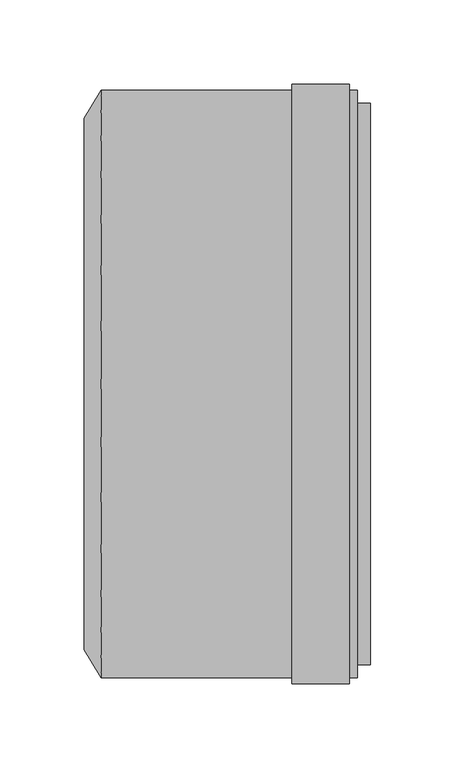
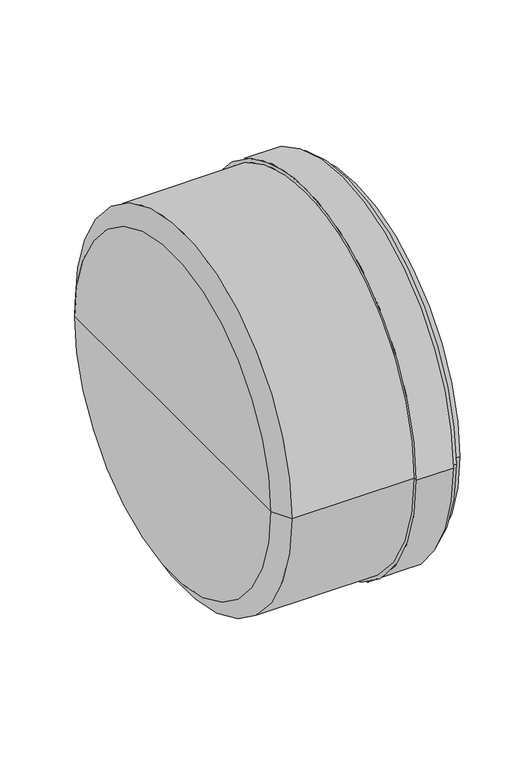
"""IFC4 building model written with IfcOpenShell, lengths in millimetres: pipe fitting geometry, pf_KGM_zatka : pf_KGM_zatka."""

from ifc_helpers import new_model, si_unit, frame, origin, place, context, project, spatial, polyline, circle_curve, source, transform, mapped, element, save
from ifc_brep_helpers import plane_surface, cylinder_surface, revolved_surface, advanced_brep


def pipe_fitting_4bf7101e(model_context):
    return source(origin(), model_context, "Body", "AdvancedBrep", [
        advanced_brep(
        [(-162.0, -157.5, 0.0), (-162.0, 157.5, 0.0), (-152.1, 174.1, 0.0), (-152.1, -174.1, 0.0), (-162.0, 0.0, 0.0), (0.0, -174.1, 0.0), (0.0, 174.1, 0.0), (0.0, 157.5, 0.0), (0.0, -157.5, 0.0), (-4.8, -174.1, 0.0), (-4.8, 174.1, 0.0), (-4.8, -177.5, 0.0), (-4.8, 177.5, 0.0), (-38.7, -177.5, 0.0), (-38.7, 177.5, 0.0), (-38.7, -174.1, 0.0), (-38.7, 174.1, 0.0), (-152.1, -157.5, 0.0), (-152.1, 157.5, 0.0), (-152.1, 0.0, 0.0)],
        [
            (0, 1, circle_curve(frame((-162.0, 0.0, 0.0), z_axis=(1.0, 0.0, 0.0), x_axis=(0.0, 1.0, 0.0)), 157.5)),
            (1, 2),
            (2, 3, circle_curve(frame((-152.1, 0.0, 0.0), z_axis=(-1.0, 0.0, 0.0), x_axis=(0.0, 1.0, 0.0)), 174.1)),
            (3, 0),
            (1, 0, circle_curve(frame((-162.0, 0.0, 0.0), z_axis=(1.0, 0.0, 0.0), x_axis=(0.0, 1.0, 0.0)), 157.5)),
            (3, 2, circle_curve(frame((-152.1, 0.0, 0.0), z_axis=(-1.0, 0.0, 0.0), x_axis=(0.0, 1.0, 0.0)), 174.1)),
            (4, 1),
            (0, 4),
            (5, 6, circle_curve(frame((0.0, 0.0, 0.0), z_axis=(1.0, 0.0, 0.0), x_axis=(0.0, 1.0, 0.0)), 174.1)),
            (6, 7),
            (7, 8, circle_curve(frame((0.0, 0.0, 0.0), z_axis=(-1.0, 0.0, 0.0), x_axis=(0.0, 1.0, 0.0)), 157.5)),
            (8, 5),
            (6, 5, circle_curve(frame((0.0, 0.0, 0.0), z_axis=(1.0, 0.0, 0.0), x_axis=(0.0, 1.0, 0.0)), 174.1)),
            (8, 7, circle_curve(frame((0.0, 0.0, 0.0), z_axis=(-1.0, 0.0, 0.0), x_axis=(0.0, 1.0, 0.0)), 157.5)),
            (9, 10, circle_curve(frame((-4.8, 0.0, 0.0), z_axis=(1.0, 0.0, 0.0), x_axis=(0.0, 1.0, 0.0)), 174.1)),
            (10, 6),
            (5, 9),
            (10, 9, circle_curve(frame((-4.8, 0.0, 0.0), z_axis=(1.0, 0.0, 0.0), x_axis=(0.0, 1.0, 0.0)), 174.1)),
            (11, 12, circle_curve(frame((-4.8, 0.0, 0.0), z_axis=(1.0, 0.0, 0.0), x_axis=(0.0, 1.0, 0.0)), 177.5)),
            (12, 10),
            (9, 11),
            (12, 11, circle_curve(frame((-4.8, 0.0, 0.0), z_axis=(1.0, 0.0, 0.0), x_axis=(0.0, 1.0, 0.0)), 177.5)),
            (13, 14, circle_curve(frame((-38.7, 0.0, 0.0), z_axis=(1.0, 0.0, 0.0), x_axis=(0.0, 1.0, 0.0)), 177.5)),
            (14, 12),
            (11, 13),
            (14, 13, circle_curve(frame((-38.7, 0.0, 0.0), z_axis=(1.0, 0.0, 0.0), x_axis=(0.0, 1.0, 0.0)), 177.5)),
            (15, 16, circle_curve(frame((-38.7, 0.0, 0.0), z_axis=(1.0, 0.0, 0.0), x_axis=(0.0, 1.0, 0.0)), 174.1)),
            (16, 14),
            (13, 15),
            (16, 15, circle_curve(frame((-38.7, 0.0, 0.0), z_axis=(1.0, 0.0, 0.0), x_axis=(0.0, 1.0, 0.0)), 174.1)),
            (2, 16),
            (15, 3),
            (17, 18, circle_curve(frame((-152.1, 0.0, 0.0), z_axis=(1.0, 0.0, 0.0), x_axis=(0.0, 1.0, 0.0)), 157.5)),
            (18, 19),
            (19, 17),
            (18, 17, circle_curve(frame((-152.1, 0.0, 0.0), z_axis=(1.0, 0.0, 0.0), x_axis=(0.0, 1.0, 0.0)), 157.5)),
            (7, 18),
            (17, 8),
        ],
        [
            revolved_surface(polyline([(-152.1, 174.1, 0.0), (-162.0, 157.5, 0.0)]), (-162.0, 0.0, 0.0), (-1.0, 0.0, 0.0)),
            plane_surface(frame((-162.0, 0.0, 0.0), z_axis=(-1.0, 0.0, 0.0), x_axis=(0.0, 1.0, 0.0))),
            plane_surface(frame((0.0, 0.0, 0.0), z_axis=(1.0, 0.0, 0.0), x_axis=(0.0, 1.0, 0.0))),
            cylinder_surface(frame((-162.0, 0.0, 0.0), z_axis=(-1.0, 0.0, 0.0), x_axis=(0.0, 1.0, 0.0)), 174.1),
            plane_surface(frame((-4.8, 0.0, 0.0), z_axis=(1.0, 0.0, 0.0), x_axis=(0.0, 1.0, 0.0))),
            cylinder_surface(frame((-162.0, 0.0, 0.0), z_axis=(-1.0, 0.0, 0.0), x_axis=(0.0, 1.0, 0.0)), 177.5),
            plane_surface(frame((-38.7, 0.0, 0.0), z_axis=(-1.0, 0.0, 0.0), x_axis=(0.0, 1.0, 0.0))),
            plane_surface(frame((-152.1, 0.0, 0.0), z_axis=(1.0, 0.0, 0.0), x_axis=(0.0, 1.0, 0.0))),
            revolved_surface(polyline([(-152.1, 157.5, 0.0), (0.0, 157.5, 0.0)]), (-162.0, 0.0, 0.0), (-1.0, 0.0, 0.0)),
        ],
        [
            (0, [[1, 2, 3, 4]]),
            (0, [[5, -4, 6, -2]]),
            (1, [[7, -1, 8]]),
            (1, [[-8, -5, -7]]),
            (2, [[9, 10, 11, 12]]),
            (2, [[13, -12, 14, -10]]),
            (3, [[15, 16, -9, 17]]),
            (3, [[18, -17, -13, -16]]),
            (4, [[19, 20, -15, 21]]),
            (4, [[22, -21, -18, -20]]),
            (5, [[23, 24, -19, 25]]),
            (5, [[26, -25, -22, -24]]),
            (6, [[27, 28, -23, 29]]),
            (6, [[30, -29, -26, -28]]),
            (3, [[-3, 31, -27, 32]]),
            (3, [[-6, -32, -30, -31]]),
            (7, [[33, 34, 35]]),
            (7, [[36, -35, -34]]),
            (8, [[-11, 37, -33, 38]]),
            (8, [[-14, -38, -36, -37]]),
        ],
    ),
        advanced_brep(
        [(-96.0, 0.0, 0.0), (-96.0, 157.5, 0.0), (-96.0, -157.5, 0.0), (7.7, -166.41, 0.0), (7.7, 166.41, 0.0), (7.7, 0.0, 0.0), (0.0, -166.41, 0.0), (0.0, 166.41, 0.0), (0.0, -158.71, 0.0), (0.0, 158.71, 0.0), (-92.0, -158.71, 0.0), (-92.0, 158.71, 0.0)],
        [
            (0, 1),
            (1, 2, circle_curve(frame((-96.0, 0.0, 0.0), z_axis=(-1.0, 0.0, 0.0), x_axis=(0.0, 1.0, 0.0)), 157.5)),
            (2, 0),
            (2, 1, circle_curve(frame((-96.0, 0.0, 0.0), z_axis=(-1.0, 0.0, 0.0), x_axis=(0.0, 1.0, 0.0)), 157.5)),
            (3, 4, circle_curve(frame((7.7, 0.0, 0.0), z_axis=(1.0, 0.0, 0.0), x_axis=(0.0, 1.0, 0.0)), 166.41)),
            (4, 5),
            (5, 3),
            (4, 3, circle_curve(frame((7.7, 0.0, 0.0), z_axis=(1.0, 0.0, 0.0), x_axis=(0.0, 1.0, 0.0)), 166.41)),
            (6, 7, circle_curve(frame((0.0, 0.0, 0.0), z_axis=(1.0, 0.0, 0.0), x_axis=(0.0, 1.0, 0.0)), 166.41)),
            (7, 4),
            (3, 6),
            (7, 6, circle_curve(frame((0.0, 0.0, 0.0), z_axis=(1.0, 0.0, 0.0), x_axis=(0.0, 1.0, 0.0)), 166.41)),
            (8, 9, circle_curve(frame((0.0, 0.0, 0.0), z_axis=(1.0, 0.0, 0.0), x_axis=(0.0, 1.0, 0.0)), 158.71)),
            (9, 7),
            (6, 8),
            (9, 8, circle_curve(frame((0.0, 0.0, 0.0), z_axis=(1.0, 0.0, 0.0), x_axis=(0.0, 1.0, 0.0)), 158.71)),
            (10, 11, circle_curve(frame((-92.0, 0.0, 0.0), z_axis=(1.0, 0.0, 0.0), x_axis=(0.0, 1.0, 0.0)), 158.71)),
            (11, 9),
            (8, 10),
            (11, 10, circle_curve(frame((-92.0, 0.0, 0.0), z_axis=(1.0, 0.0, 0.0), x_axis=(0.0, 1.0, 0.0)), 158.71)),
            (1, 11),
            (10, 2),
        ],
        [
            plane_surface(frame((-96.0, 0.0, 0.0), z_axis=(-1.0, 0.0, 0.0), x_axis=(0.0, 1.0, 0.0))),
            plane_surface(frame((7.7, 0.0, 0.0), z_axis=(1.0, 0.0, 0.0), x_axis=(0.0, 1.0, 0.0))),
            cylinder_surface(frame((-95.0241529, 0.0, 0.0), z_axis=(-1.0, 0.0, 0.0), x_axis=(0.0, 1.0, 0.0)), 166.41),
            plane_surface(frame((0.0, 0.0, 0.0), z_axis=(-1.0, 0.0, 0.0), x_axis=(0.0, 1.0, 0.0))),
            cylinder_surface(frame((-95.0241529, 0.0, 0.0), z_axis=(-1.0, 0.0, 0.0), x_axis=(0.0, 1.0, 0.0)), 158.71),
            revolved_surface(polyline([(-92.0, 158.71, 0.0), (-96.0, 157.5, 0.0)]), (-95.0241529, 0.0, 0.0), (-1.0, 0.0, 0.0)),
        ],
        [
            (0, [[1, 2, 3]]),
            (0, [[-3, 4, -1]]),
            (1, [[5, 6, 7]]),
            (1, [[8, -7, -6]]),
            (2, [[9, 10, -5, 11]]),
            (2, [[12, -11, -8, -10]]),
            (3, [[13, 14, -9, 15]]),
            (3, [[16, -15, -12, -14]]),
            (4, [[17, 18, -13, 19]]),
            (4, [[20, -19, -16, -18]]),
            (5, [[-2, 21, -17, 22]]),
            (5, [[-4, -22, -20, -21]]),
        ],
    ),
    ])


if __name__ == "__main__":
    model = new_model("IFC4")
    model_context = context("Model", 3, world=origin())
    ifc_project = project(units=[si_unit("LENGTHUNIT", "METRE", prefix="MILLI")], contexts=[model_context])
    site = spatial("IfcSite", under=ifc_project)
    building = spatial("IfcBuilding", under=site)
    placement = place(None, origin())
    pipe_fitting_shape = pipe_fitting_4bf7101e(model_context)
    element("IfcPipeFitting", 1, ObjectType="pf_KGM_zatka : pf_KGM_zatka", at=placement, inside=building, context=model_context, shape_type="MappedRepresentation", body=[
        mapped(pipe_fitting_shape, transform((0.0, 0.0, 0.0), x_axis=(1.0, 0.0, 0.0), y_axis=(0.0, 1.0, 0.0), z_axis=(0.0, 0.0, 1.0))),
    ])
    save(model, "model.ifc")
